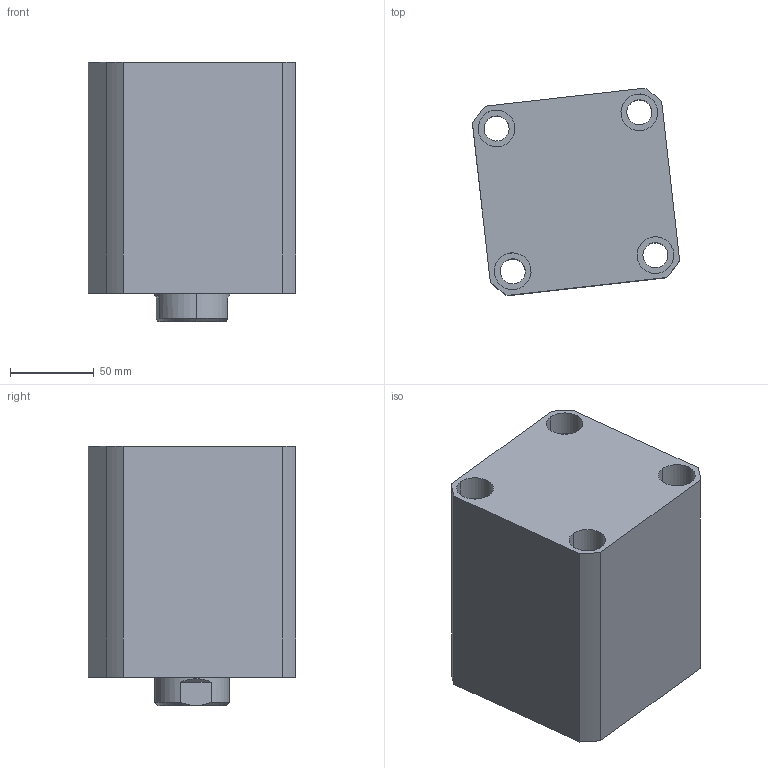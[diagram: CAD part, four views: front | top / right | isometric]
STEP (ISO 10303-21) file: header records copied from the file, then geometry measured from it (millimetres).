
FILE_DESCRIPTION (( 'STEP AP214' ), '1' );
FILE_NAME ('chtb-sdma80x60n_asm.STEP', '2018-05-29T02:20:19', ( 'Windows' ), ( 'Microsoft' ), 'SwSTEP 2.0', 'SolidWorks 2015', '' );
FILE_SCHEMA (( 'AUTOMOTIVE_DESIGN' ));
Length unit declared in the file: millimetre
Products named in the file (4): CHTB-SDMA80X60NBT; CHTB-SD80X60NHSG; CHTB-SD80QG; chtb-sdma80x60n_asm
Assembly tree (3 placements, depth 2):
  chtb-sdma80x60n_asm
    CHTB-SD80QG
    CHTB-SD80X60NHSG
    CHTB-SDMA80X60NBT
Bounding box: 124.04 x 124.04 x 155 mm (x, y, z)
Volume: 1429365.3 mm3; surface area: 212305.5 mm2
Topology: 3 solids, 3 shells, 190 faces, 516 edges, 345 vertices
Faces by surface type: cylinder 107, plane 35, torus 18, cone 16, bspline 14
Entity records: 15170 total; most frequent: CARTESIAN_POINT 10463, ORIENTED_EDGE 1020, DIRECTION 879, EDGE_CURVE 510, AXIS2_PLACEMENT_3D 368, VERTEX_POINT 345, EDGE_LOOP 227, ADVANCED_FACE 190
